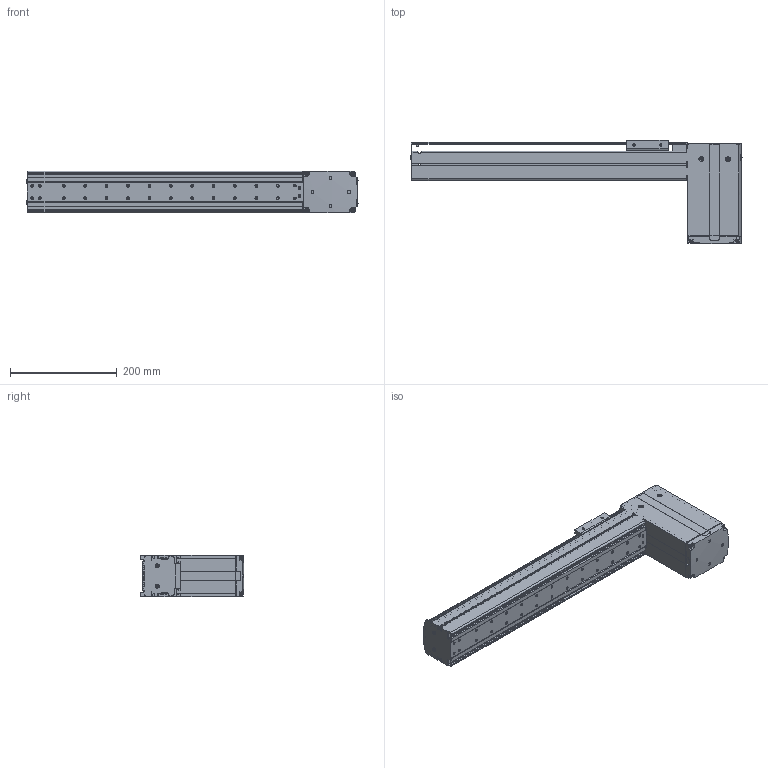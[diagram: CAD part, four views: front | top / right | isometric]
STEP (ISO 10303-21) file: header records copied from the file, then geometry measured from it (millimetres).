
FILE_DESCRIPTION((''),'2;1');
FILE_NAME('BE10_-BU-S_N-35_IGS_PRT','2017-06-18T',(' '),(''),'PRO/ENGINEER BY PARAMETRIC TECHNOLOGY CORPORATION, 2015030','PRO/ENGINEER BY PARAMETRIC TECHNOLOGY CORPORATION, 2015030','');
FILE_SCHEMA(('CONFIG_CONTROL_DESIGN'));
Length unit declared in the file: millimetre
Products named in the file (1): BE10_-BU-S_N-35_IGS_PRT
Bounding box: 620.8 x 192.72 x 78 mm (x, y, z)
Volume: 885505 mm3; surface area: 629697.4 mm2
Topology: 3 solids, 104 shells, 1831 faces, 4971 edges, 3255 vertices
Faces by surface type: plane 894, cylinder 776, cone 119, sphere 21, torus 19, bspline 2
Entity records: 58952 total; most frequent: CARTESIAN_POINT 11782, DIRECTION 10029, ORIENTED_EDGE 9482, EDGE_CURVE 4917, AXIS2_PLACEMENT_3D 3531, VERTEX_POINT 3255, VECTOR 2967, LINE 2967
